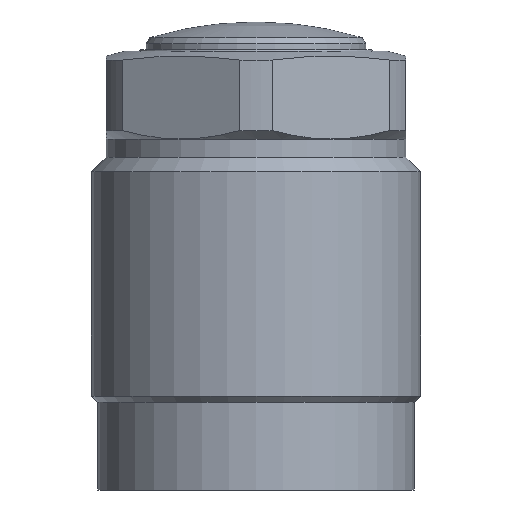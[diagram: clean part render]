
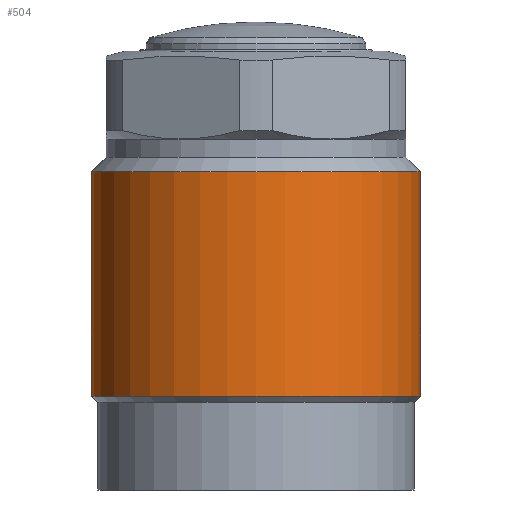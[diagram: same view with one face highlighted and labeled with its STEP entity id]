
A CAD part, front view. The second image highlights one B-rep face of the part: STEP entity #504.
In plain terms, the highlighted cylindrical face has radius 22.5 mm (diameter 45 mm), a partial arc.
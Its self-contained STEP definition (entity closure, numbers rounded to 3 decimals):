
#441=CARTESIAN_POINT('',(-22.5,0.0,-47.15));
#442=VERTEX_POINT('',#441);
#450=CARTESIAN_POINT('',(22.5,0.0,-47.15));
#451=VERTEX_POINT('',#450);
#458=CARTESIAN_POINT('',(0.0,0.0,-47.15));
#459=DIRECTION('',(0.0,0.0,1.0));
#460=DIRECTION('',(1.0,0.0,0.0));
#461=AXIS2_PLACEMENT_3D('',#458,#459,#460);
#462=CIRCLE('',#461,22.5);
#463=EDGE_CURVE('no 1136',#442,#451,#462,.T.);
#473=CARTESIAN_POINT('',(-22.5,0.0,-16.5));
#474=VERTEX_POINT('',#473);
#475=CARTESIAN_POINT('',(-22.5,0.0,-47.15));
#476=DIRECTION('',(0.0,-0.0,1.0));
#477=VECTOR('',#476,1.0);
#478=LINE('',#475,#477);
#479=EDGE_CURVE('no 1146',#442,#474,#478,.T.);
#480=ORIENTED_EDGE('',*,*,#479,.F.);
#481=ORIENTED_EDGE('',*,*,#463,.T.);
#482=CARTESIAN_POINT('',(22.5,0.0,-16.5));
#483=VERTEX_POINT('',#482);
#484=CARTESIAN_POINT('',(22.5,0.0,-47.15));
#485=DIRECTION('',(0.0,0.0,1.0));
#486=VECTOR('',#485,1.0);
#487=LINE('',#484,#486);
#488=EDGE_CURVE('no 1154',#451,#483,#487,.T.);
#489=ORIENTED_EDGE('',*,*,#488,.T.);
#490=CARTESIAN_POINT('',(0.0,0.0,-16.5));
#491=DIRECTION('',(0.0,0.0,1.0));
#492=DIRECTION('',(1.0,0.0,0.0));
#493=AXIS2_PLACEMENT_3D('',#490,#491,#492);
#494=CIRCLE('',#493,22.5);
#495=EDGE_CURVE('no 1158',#474,#483,#494,.T.);
#496=ORIENTED_EDGE('',*,*,#495,.F.);
#497=EDGE_LOOP('',(#480,#481,#489,#496));
#498=FACE_OUTER_BOUND('',#497,.T.);
#499=CARTESIAN_POINT('',(0.0,0.0,5.219));
#500=DIRECTION('',(0.0,0.0,1.0));
#501=DIRECTION('',(0.0,1.0,0.0));
#502=AXIS2_PLACEMENT_3D('',#499,#500,#501);
#503=CYLINDRICAL_SURFACE('',#502,22.5);
#504=ADVANCED_FACE('no 1139',(#498),#503,.T.);
